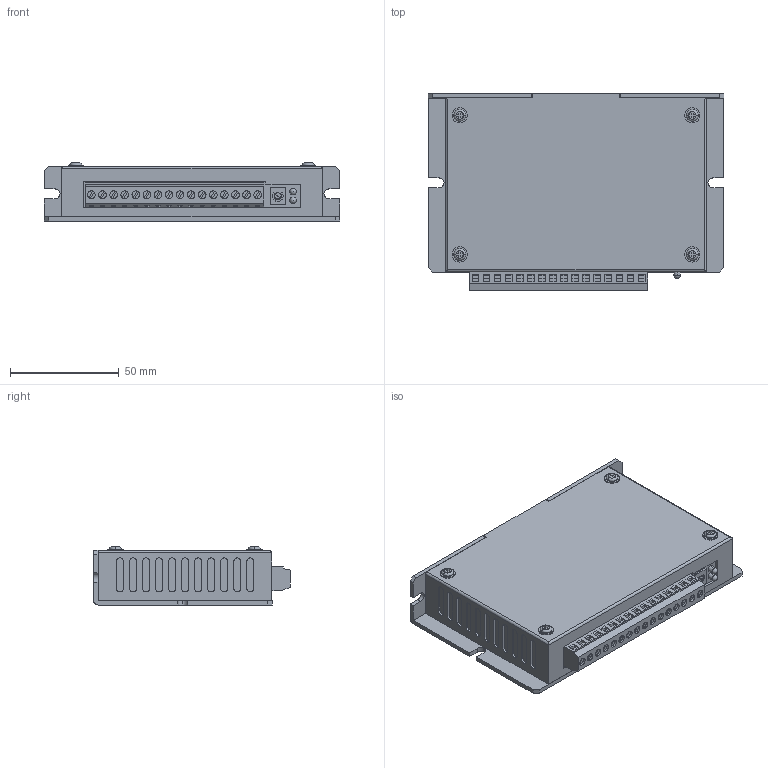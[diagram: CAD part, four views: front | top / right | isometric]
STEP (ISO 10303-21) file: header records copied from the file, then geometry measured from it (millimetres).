
FILE_DESCRIPTION (( 'STEP AP214' ), '1' );
FILE_NAME ('EXD2040M.STEP', '2011-09-22T01:24:25', ( 'extion' ), ( '' ), 'SwSTEP 2.0', 'SolidWorks 2010', '' );
FILE_SCHEMA (( 'AUTOMOTIVE_DESIGN' ));
Length unit declared in the file: millimetre
Products named in the file (1): EXD2040M
Bounding box: 136 x 90.5 x 26.7 mm (x, y, z)
Volume: 253932.9 mm3; surface area: 37456.3 mm2
Topology: 1 solids, 1 shells, 736 faces, 1914 edges, 1256 vertices
Faces by surface type: plane 603, cylinder 123, torus 8, sphere 2
Entity records: 27637 total; most frequent: CARTESIAN_POINT 3903, ORIENTED_EDGE 3816, DIRECTION 3714, EDGE_CURVE 1908, LINE 1572, VECTOR 1572, VERTEX_POINT 1252, AXIS2_PLACEMENT_3D 1071
